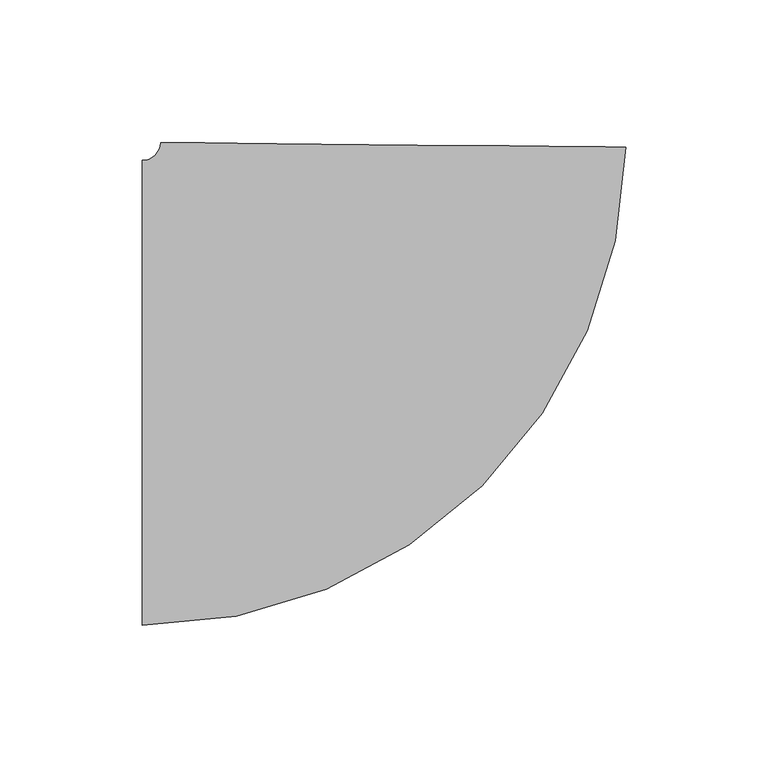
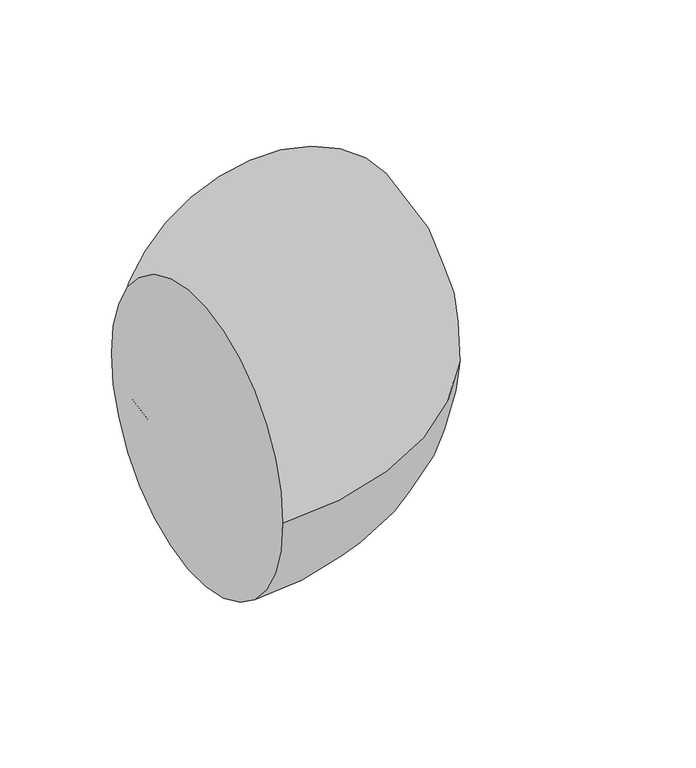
"""IFC4 building model written with IfcOpenShell, lengths in millimetres: pipe fitting geometry, M_Codo - Genérico : Estándar."""

import ifcopenshell
import ifcopenshell.guid

model = None  # the IFC model being written
_history = None  # IfcOwnerHistory: only IFC2X3 demands one
_inside = {}  # id of a spatial element -> (the spatial element, [elements in it])
_under = {}  # id of a project, library or spatial element -> (it, [spatial elements below it])
_declared = {}  # id of a project -> (the project, [libraries it declares])
_typed = {}  # id of a type object -> (the type object, [elements of that type])
_made_of = {}  # id of a material, layer set ... -> (it, [elements and type objects made of it])


def new_model(schema):
    """Start an empty IFC model of exactly this schema.

    Asked for "IFC4X3", IfcOpenShell would pick the latest addendum, in which some entities
    have other attributes; the version numbers below select the first issue.
    IFC2X3 requires an IfcOwnerHistory on every rooted entity: one is made here for all.
    """
    global model, _history
    if schema == "IFC4X3":
        model = ifcopenshell.file(schema_version=(4, 3, 0, 0))
    else:
        model = ifcopenshell.file(schema=schema)
    _inside.clear()
    _under.clear()
    _declared.clear()
    _typed.clear()
    _made_of.clear()
    _history = None
    if model.schema == "IFC2X3":
        org = make("IfcOrganization", Name="unknown")
        user = make(
            "IfcPersonAndOrganization",
            ThePerson=make("IfcPerson", FamilyName="unknown"),
            TheOrganization=org,
        )
        app = make(
            "IfcApplication",
            ApplicationDeveloper=org,
            Version="unknown",
            ApplicationFullName="unknown",
            ApplicationIdentifier="unknown",
        )
        _history = make(
            "IfcOwnerHistory",
            OwningUser=user,
            OwningApplication=app,
            ChangeAction="ADDED",
            CreationDate=0,
        )
    return model


def make(cls, **values):
    """One entity of the class cls with the attributes given. An attribute that is None is left unset."""
    return model.create_entity(
        cls, **{name: value for name, value in values.items() if value is not None}
    )


def rooted(cls, **values):
    """An entity with a GlobalId (a new one), such as an element, a storey or a relation."""
    return make(cls, GlobalId=ifcopenshell.guid.new(), OwnerHistory=_history, **values)


def si_unit(unit_type, name, prefix=None):
    """IfcSIUnit, for example si_unit("LENGTHUNIT", "METRE", prefix="MILLI")."""
    return make("IfcSIUnit", UnitType=unit_type, Prefix=prefix, Name=name)


def assignment(units):
    """IfcUnitAssignment: the units of a project."""
    return None if units is None else make("IfcUnitAssignment", Units=units)


def point(xyz):
    """IfcCartesianPoint."""
    return None if xyz is None else make("IfcCartesianPoint", Coordinates=xyz)


def direction(xyz):
    """IfcDirection."""
    return None if xyz is None else make("IfcDirection", DirectionRatios=xyz)


def frame(location, z_axis=None, x_axis=None):
    """IfcAxis2Placement3D, a coordinate frame: its origin and axes. An axis left out is left unset."""
    return make(
        "IfcAxis2Placement3D",
        Location=point(location),
        Axis=direction(z_axis),
        RefDirection=direction(x_axis),
    )


def origin():
    """The frame at (0, 0, 0) with its axes left unset."""
    return frame((0.0, 0.0, 0.0))


def place(relative_to, where):
    """IfcLocalPlacement: puts the frame where relative to a parent placement (None: the world)."""
    return make(
        "IfcLocalPlacement", PlacementRelTo=relative_to, RelativePlacement=where
    )


def context(
    kind, dimensions, precision=None, world=None, true_north=None, identifier=None
):
    """IfcGeometricRepresentationContext, for example the 3D "Model" context."""
    return make(
        "IfcGeometricRepresentationContext",
        ContextIdentifier=identifier,
        ContextType=kind,
        CoordinateSpaceDimension=dimensions,
        Precision=precision,
        WorldCoordinateSystem=world,
        TrueNorth=true_north,
    )


def project(units=None, contexts=None):
    """IfcProject with its units and contexts."""
    return rooted(
        "IfcProject",
        Name="project",
        RepresentationContexts=contexts,
        UnitsInContext=assignment(units),
    )


def spatial(cls, under=None, at=None, **own):
    """A site, building, storey or space (cls), placed at a placement, below another one or the project."""
    s = rooted(cls, ObjectPlacement=at, **own)
    if under is not None:
        _under.setdefault(under.id(), (under, []))[1].append(s)
    return s


def circle_curve(where, radius):
    """IfcCircle in the frame where."""
    return make("IfcCircle", Position=where, Radius=radius)


def ellipse_curve(where, semi_axis1, semi_axis2):
    """IfcEllipse in the frame where."""
    return make(
        "IfcEllipse", Position=where, SemiAxis1=semi_axis1, SemiAxis2=semi_axis2
    )


def trimmed(basis, trim1, trim2, sense, master):
    """IfcTrimmedCurve: the piece of a basis curve between two trims."""
    return make(
        "IfcTrimmedCurve",
        BasisCurve=basis,
        Trim1=trim1,
        Trim2=trim2,
        SenseAgreement=sense,
        MasterRepresentation=master,
    )


def shape(context_of_items, identifier, shape_type, items):
    """IfcShapeRepresentation: the items that make up one representation, for example the "Body"."""
    return make(
        "IfcShapeRepresentation",
        ContextOfItems=context_of_items,
        RepresentationIdentifier=identifier,
        RepresentationType=shape_type,
        Items=items,
    )


def source(mapping_origin, context_of_items, identifier, shape_type, items):
    """IfcRepresentationMap: a shape defined once, which mapped items show again and again."""
    return make(
        "IfcRepresentationMap",
        MappingOrigin=mapping_origin,
        MappedRepresentation=shape(context_of_items, identifier, shape_type, items),
    )


def transform(
    local_origin,
    x_axis=None,
    y_axis=None,
    z_axis=None,
    scale=None,
    scale2=None,
    scale3=None,
    uniform=True,
):
    """IfcCartesianTransformationOperator3D, or its non-uniform kind. x_axis, y_axis, z_axis: its Axis1, 2, 3."""
    if uniform:
        return make(
            "IfcCartesianTransformationOperator3D",
            Axis1=direction(x_axis),
            Axis2=direction(y_axis),
            LocalOrigin=point(local_origin),
            Scale=scale,
            Axis3=direction(z_axis),
        )
    return make(
        "IfcCartesianTransformationOperator3DnonUniform",
        Axis1=direction(x_axis),
        Axis2=direction(y_axis),
        LocalOrigin=point(local_origin),
        Scale=scale,
        Axis3=direction(z_axis),
        Scale2=scale2,
        Scale3=scale3,
    )


def mapped(mapping_source, mapping_target):
    """IfcMappedItem: shows the shape of a source again, moved by a transform."""
    return make(
        "IfcMappedItem", MappingSource=mapping_source, MappingTarget=mapping_target
    )


def made_of(thing, what):
    """Note that an element or type object is made of a material, layer set ...; save() writes the relation."""
    if what is not None:
        _made_of.setdefault(what.id(), (what, []))[1].append(thing)
    return thing


def element(
    cls,
    number,
    at=None,
    inside=None,
    cuts=None,
    type_object=None,
    material=None,
    context=None,
    identifier="Body",
    shape_type=None,
    held_by="IfcProductDefinitionShape",
    body=None,
    shapes=None,
    **own,
):
    """One element of the class cls, such as IfcWall. Its Tag is "e" and its number.

    at: its placement. inside: the storey or other place that contains it. cuts: it is an
    opening in that element (IfcRelVoidsElement). A single representation is given by context,
    identifier, shape_type and body (its items); several are given by shapes. held_by: the class
    of the entity that holds the representations. save() writes the other relations.
    """
    e = rooted(cls, Tag="e%d" % number, ObjectPlacement=at, **own)
    if body is not None:
        shapes = [shape(context, identifier, shape_type, body)]
    if shapes is not None:
        e.Representation = make(held_by, Representations=shapes)
    if inside is not None:
        _inside.setdefault(inside.id(), (inside, []))[1].append(e)
    if cuts is not None:
        rooted(
            "IfcRelVoidsElement", RelatingBuildingElement=cuts, RelatedOpeningElement=e
        )
    if type_object is not None:
        _typed.setdefault(type_object.id(), (type_object, []))[1].append(e)
    return made_of(e, material)


def aggregate(whole, parts):
    """IfcRelAggregates: a whole, such as a stair, and the parts it consists of."""
    return rooted("IfcRelAggregates", RelatingObject=whole, RelatedObjects=parts)


def save(model, path):
    """Write the relations noted so far, then the file.

    IfcRelAggregates (storeys below a building ...), IfcRelContainedInSpatialStructure (elements
    in a storey), IfcRelDefinesByType, IfcRelAssociatesMaterial and IfcRelDeclares: one each for
    every whole, place, type object, material and project.
    """
    for whole, parts in _under.values():
        aggregate(whole, parts)
    for where, things in _inside.values():
        rooted(
            "IfcRelContainedInSpatialStructure",
            RelatedElements=things,
            RelatingStructure=where,
        )
    for kind, things in _typed.values():
        rooted("IfcRelDefinesByType", RelatedObjects=things, RelatingType=kind)
    for what, things in _made_of.values():
        rooted("IfcRelAssociatesMaterial", RelatedObjects=things, RelatingMaterial=what)
    for by, libraries in _declared.values():
        rooted("IfcRelDeclares", RelatingContext=by, RelatedDefinitions=libraries)
    model.write(path)


def plane_surface(at):
    """IfcPlane: the flat surface through the origin of the frame at, square to its z axis."""
    return make("IfcPlane", Position=at)


def revolved_surface(curve, axis_point, axis_direction):
    """IfcSurfaceOfRevolution: the curve turned about the line through axis_point along axis_direction."""
    return make(
        "IfcSurfaceOfRevolution",
        SweptCurve=make("IfcArbitraryOpenProfileDef", ProfileType="CURVE", Curve=curve),
        AxisPosition=make("IfcAxis1Placement", Location=point(axis_point), Axis=direction(axis_direction)),
    )


def advanced_brep(points, edges, surfaces, faces):
    """IfcAdvancedBrep: a solid bounded by faces that lie on surfaces and meet in shared edges.

    An edge is (start, end): straight between two places in points (the first is 0);
    or (start, end, curve); or (start, end, curve, False) where it runs against its curve.
    A face is (place in surfaces, loops), or (place, loops, False) where it looks against
    its surface's normal. A loop lists edges by number (the first is 1), with a minus sign
    where the edge is run from its end to its start. The first loop is the outer one.
    """
    corners = [point(p) for p in points]
    vertices = [make("IfcVertexPoint", VertexGeometry=c) for c in corners]
    made = []
    for start, end, *more in edges:
        made.append(
            make(
                "IfcEdgeCurve",
                EdgeStart=vertices[start],
                EdgeEnd=vertices[end],
                EdgeGeometry=more[0] if more else make("IfcPolyline", Points=[corners[start], corners[end]]),
                SameSense=more[1] if len(more) > 1 else True,
            )
        )
    hull = []
    for where, loops, *sense in faces:
        bounds = []
        for j, loop in enumerate(loops):
            ring = [make("IfcOrientedEdge", EdgeElement=made[abs(k) - 1], Orientation=k > 0) for k in loop]
            bounds.append(
                make(
                    "IfcFaceOuterBound" if j == 0 else "IfcFaceBound",
                    Bound=make("IfcEdgeLoop", EdgeList=ring),
                    Orientation=True,
                )
            )
        hull.append(make("IfcAdvancedFace", Bounds=bounds, FaceSurface=surfaces[where], SameSense=sense[0] if sense else True))
    return make("IfcAdvancedBrep", Outer=make("IfcClosedShell", CfsFaces=hull))


def pipe_fitting_daf7410a(model_context):
    return source(origin(), model_context, "Body", "AdvancedBrep", [
        advanced_brep(
        [(-87.0625218, -81.5875, 0.0), (-87.0625218, 81.5875, 0.0), (82.4540026, 86.2423348, 0.0), (-80.7128392, 87.8740032, 0.0)],
        [
            (0, 1, circle_curve(frame((-87.0625218, 0.0, 0.0), z_axis=(-1.0, 0.0, 0.0), x_axis=(0.0, 1.0, 0.0)), 81.5875)),
            (1, 0, circle_curve(frame((-87.0625218, 0.0, 0.0), z_axis=(-1.0, 0.0, 0.0), x_axis=(0.0, 1.0, 0.0)), 81.5875)),
            (2, 3, circle_curve(frame((0.8705817, 87.058169, 0.0), z_axis=(0.009999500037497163, 0.9999500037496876, 0.0), x_axis=(-0.9999500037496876, 0.009999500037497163, 0.0)), 81.5875)),
            (3, 2, circle_curve(frame((0.8705817, 87.058169, 0.0), z_axis=(0.009999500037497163, 0.9999500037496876, 0.0), x_axis=(-0.9999500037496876, 0.009999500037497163, 0.0)), 81.5875)),
            (3, 1, circle_curve(frame((-87.0625218, 87.9375, 0.0), z_axis=(0.0, 0.0, -1.0), x_axis=(0.0, -1.0, 0.0)), 6.35)),
            (0, 2, circle_curve(frame((-87.0625218, 87.9375, 0.0), z_axis=(0.0, 0.0, 1.0), x_axis=(0.0, -1.0, 0.0)), 169.525)),
        ],
        [
            plane_surface(frame((-87.0625218, 0.0, 0.0), z_axis=(-1.0, 0.0, 0.0), x_axis=(0.0, 0.0, 1.0))),
            plane_surface(frame((0.8705817, 87.058169, 0.0), z_axis=(0.009999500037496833, 0.9999500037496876, 0.0), x_axis=(0.0, 0.0, 1.0))),
            revolved_surface(trimmed(ellipse_curve(frame((-87.0625218, 0.0, 0.0), z_axis=(-1.0, 0.0, 0.0), x_axis=(0.0, 1.0, 0.0)), 81.5875, 81.5875), [point((-87.0625218, -81.5875, 0.0))], [point((-87.0625218, 81.5875, 0.0))], True, "CARTESIAN"), (-87.0625218, 87.9375, 0.0), (0.0, 0.0, 1.0)),
            revolved_surface(trimmed(ellipse_curve(frame((-87.0625218, 0.0, 0.0), z_axis=(-1.0, 0.0, 0.0), x_axis=(0.0, 1.0, 0.0)), 81.5875, 81.5875), [point((-87.0625218, 81.5875, 0.0))], [point((-87.0625218, -81.5875, 0.0))], True, "CARTESIAN"), (-87.0625218, 87.9375, 0.0), (0.0, 0.0, 1.0)),
        ],
        [
            (0, [[1, 2]]),
            (1, [[3, 4]]),
            (2, [[5, -1, 6, -4]]),
            (3, [[-6, -2, -5, -3]]),
        ],
    ),
    ])


if __name__ == "__main__":
    model = new_model("IFC4")
    model_context = context("Model", 3, world=origin())
    ifc_project = project(units=[si_unit("LENGTHUNIT", "METRE", prefix="MILLI")], contexts=[model_context])
    site = spatial("IfcSite", under=ifc_project)
    building = spatial("IfcBuilding", under=site)
    placement = place(None, origin())
    pipe_fitting_shape = pipe_fitting_daf7410a(model_context)
    element("IfcPipeFitting", 1, ObjectType="M_Codo - Genérico : Estándar", at=placement, inside=building, context=model_context, shape_type="MappedRepresentation", body=[
        mapped(pipe_fitting_shape, transform((0.0, 0.0, 0.0), x_axis=(1.0, 0.0, 0.0), y_axis=(0.0, 1.0, 0.0), z_axis=(0.0, 0.0, 1.0))),
    ])
    save(model, "model.ifc")
